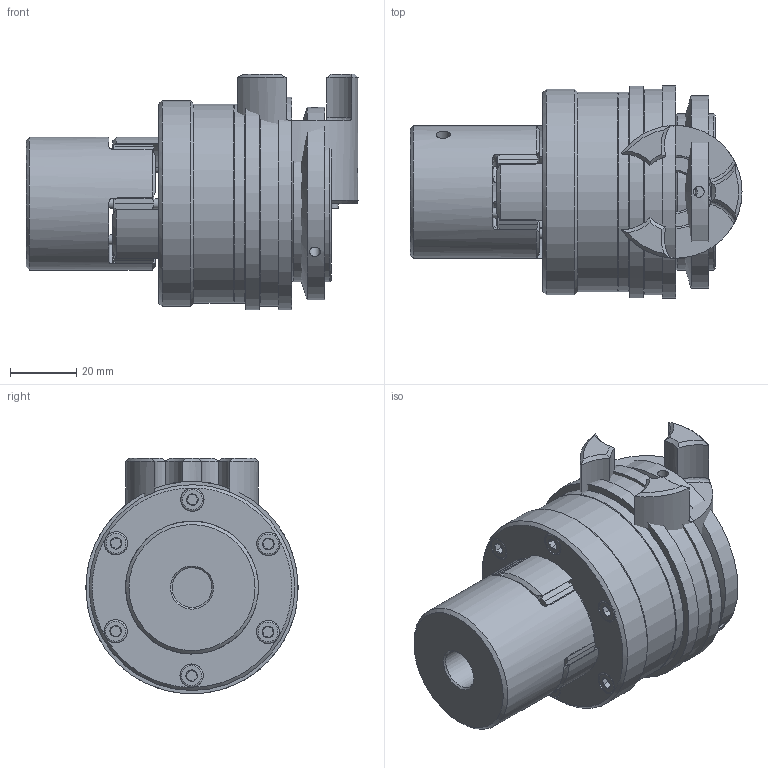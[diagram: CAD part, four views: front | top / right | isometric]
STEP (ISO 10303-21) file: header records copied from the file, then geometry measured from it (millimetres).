
FILE_DESCRIPTION( ( 'Unknown' ), '1' );
FILE_NAME( 'K:/Daten/homepage/cad - homepage/KBK-E-PP/KBK EPP-19.stp', 'Unknown', ( 'Unknown' ), ( 'Unknown' ), 'XStep 1.0', 'Unknown', ' ' );
FILE_SCHEMA( ( 'automotive_design' ) );
Length unit declared in the file: millimetre
Products named in the file (14): Assem1; Assem2; ball_bearing_-_6005_0_01; ball_bearing_-_6005_0_02; ball_bearing_-_6005_0_03; Stellring 30; Druckring 30; a_25; Flansch L30; Zahnkranz_19; KBE 1 - 19_Nabe; ISO EN DIN 4762_M4x16; L-P-30 Grundkörper; Elastomerflansch 19
Bounding box: 100 x 64 x 71 mm (x, y, z)
Volume: 290445 mm3; surface area: 137372.7 mm2
Topology: 32 solids, 32 shells, 728 faces, 1596 edges, 994 vertices
Faces by surface type: plane 248, cylinder 242, cone 179, torus 59
Full cylindrical faces by diameter (mm): 2 x4, 3 x12, 3.242 x18, 3.5 x7, 4 x14, 4.2 x14, 7 x19, 8 x2, 12 x2, 18 x4, 23.9 x2, 25 x7, 32 x6, 34 x2, 38 x4, 40 x4, 40.3 x6, 47 x7, 52 x2, 58 x2, 60 x4, 62 x2, 64 x2
Entity records: 8499 total; most frequent: CARTESIAN_POINT 2009, DIRECTION 1382, ORIENTED_EDGE 1084, AXIS2_PLACEMENT_3D 626, EDGE_CURVE 542, EDGE_LOOP 449, VERTEX_POINT 389, FACE_OUTER_BOUND 366
